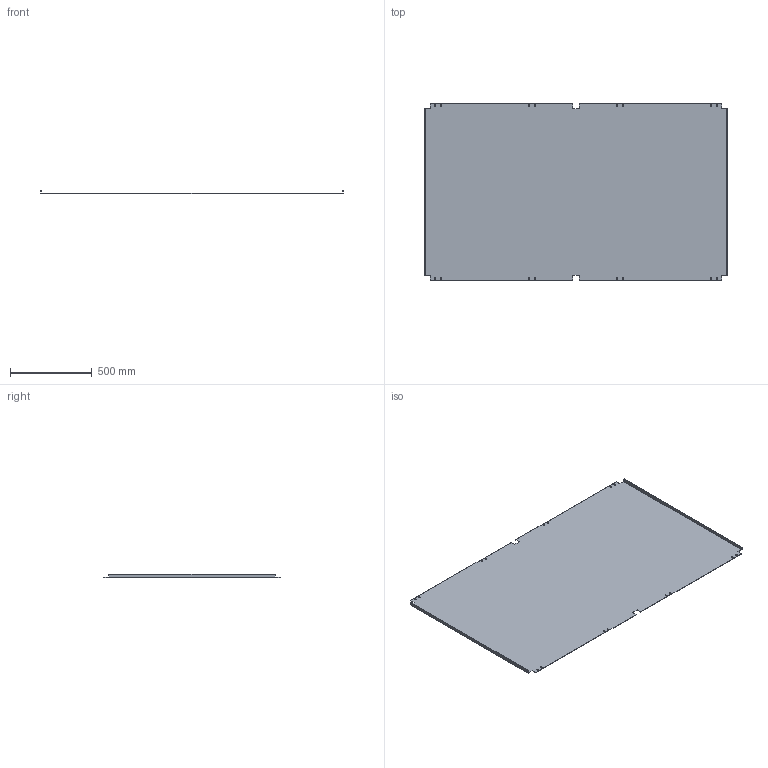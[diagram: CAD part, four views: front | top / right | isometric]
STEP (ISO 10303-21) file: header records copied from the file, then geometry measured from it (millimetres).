
FILE_DESCRIPTION(('Open CASCADE Model'),'2;1');
FILE_NAME('Open CASCADE Shape Model','2025-02-13T17:36:48',('Author'),( 'Open CASCADE'),'Open CASCADE STEP processor 7.8','Open CASCADE 7.8' ,'Unknown');
FILE_SCHEMA(('AUTOMOTIVE_DESIGN { 1 0 10303 214 1 1 1 1 }'));
Length unit declared in the file: millimetre
Products named in the file (1): Solid1
Bounding box: 1850 x 1080 x 20 mm (x, y, z)
Volume: 5060201.1 mm3; surface area: 4064717.6 mm2
Topology: 1 solids, 1 shells, 102 faces, 284 edges, 184 vertices
Faces by surface type: plane 66, cylinder 36
Entity records: 3326 total; most frequent: CARTESIAN_POINT 571, ORIENTED_EDGE 568, DIRECTION 562, EDGE_CURVE 284, LINE 212, VECTOR 212, VERTEX_POINT 184, AXIS2_PLACEMENT_3D 175
